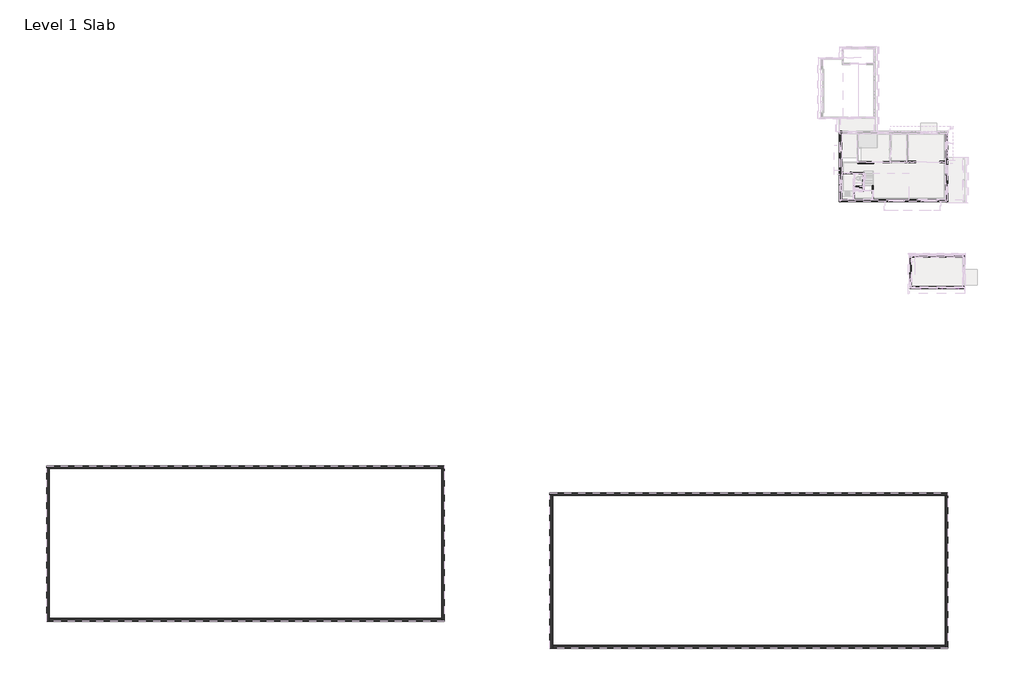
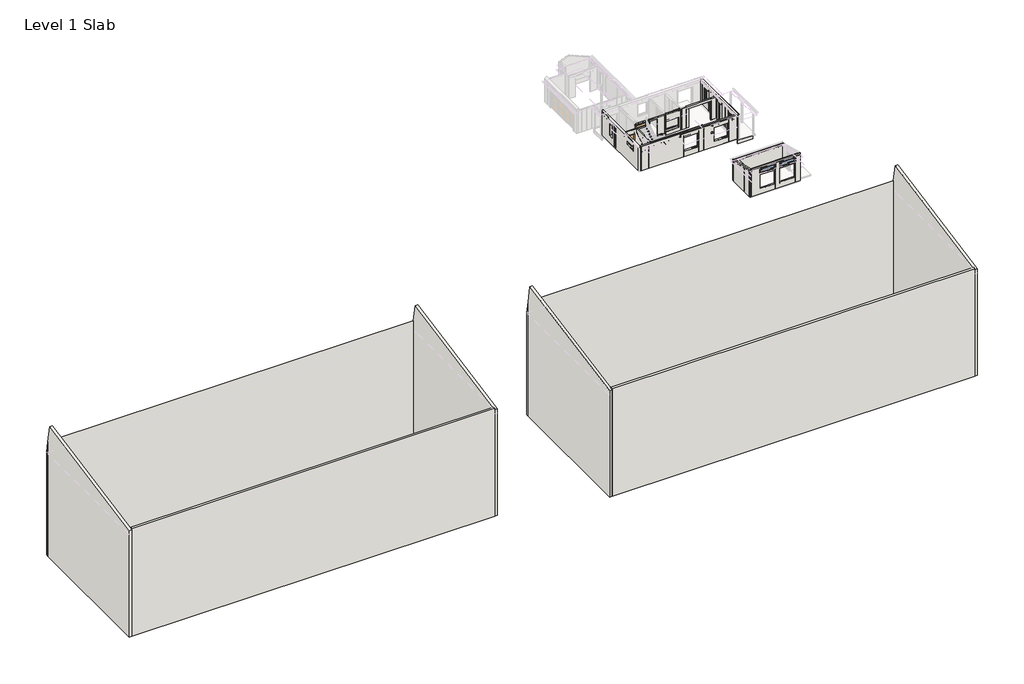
# One storey, part 1 of 11: 28 walls, 3 doors, 2 windows.
"""IFC4 building model written with IfcOpenShell, lengths in millimetres."""

from ifc_helpers import new_model, si_unit, frame, origin, origin_with_axes, place, context, project, spatial, polyline, outline, extrude, faceted_brep, transform, mapped, element, save
from components import horizontal_rolling_barn_door_5480sld_e0d32aa0, single_flush_access_panel_2240hc_e817886f, single_panel_flush_wood_21080hc_455a9f4f, window_a3b314fc

model = new_model("IFC4")

# Units and contexts
model_context = context("Model", 3, world=origin())
ifc_project = project(units=[si_unit("LENGTHUNIT", "METRE", prefix="MILLI")], contexts=[model_context])

# Site, building, storey
site = spatial("IfcSite", under=ifc_project)
building = spatial("IfcBuilding", under=site)
storey = spatial("IfcBuildingStorey", under=building, Name="Level 1 Slab", Elevation=0.0)

# Doors
placement = place(None, origin())
horizontal_rolling_barn_door_5480sld_shape = horizontal_rolling_barn_door_5480sld_e0d32aa0(model_context)
element("IfcDoor", 1, ObjectType="Horizontal rolling barn door : 5480SLD", at=placement, inside=storey, context=model_context, shape_type="MappedRepresentation", body=[
    mapped(horizontal_rolling_barn_door_5480sld_shape, transform((-9465.7913012, -131.2650713, 0.0), x_axis=(1.0, 0.0, 0.0), y_axis=(0.0, 1.0, 0.0), z_axis=(0.0, 0.0, 1.0))),
])
single_flush_access_panel_2240hc_shape = single_flush_access_panel_2240hc_e817886f(model_context)
element("IfcDoor", 2, ObjectType="Single Flush Access Panel : 2240HC", at=placement, inside=storey, context=model_context, shape_type="MappedRepresentation", body=[
    mapped(single_flush_access_panel_2240hc_shape, transform((-9519.5470616, -3998.4150713, 0.0), x_axis=(0.0, -1.0, 0.0), y_axis=(1.0, 0.0, 0.0), z_axis=(0.0, 0.0, 1.0))),
])
single_panel_flush_wood_21080hc_shape = single_panel_flush_wood_21080hc_455a9f4f(model_context)
element("IfcDoor", 3, ObjectType="Single Panel Flush Wood : 21080HC", at=placement, inside=storey, context=model_context, shape_type="MappedRepresentation", body=[
    mapped(single_panel_flush_wood_21080hc_shape, transform((-12485.0178637, -1350.4650713, 0.0), x_axis=(-1.0, 0.0, 0.0), y_axis=(0.0, -1.0, 0.0), z_axis=(0.0, 0.0, 1.0))),
])

# Walls
element("IfcWall", 4, ObjectType="EXT.SDG.LAP10 - 3/8ESL10.1/2AIR.4WS.2-1/4AIR.4WS.1/2GB (NR)", at=placement, inside=storey, context=model_context, shape_type="Brep", body=[
    faceted_brep([(-13018.4178637, -4598.4900713, 0.0), (-13018.4178637, -4328.6150713, 0.0), (-13018.4178637, -4125.4150713, 0.0), (-13018.4178637, -4020.6400713, 0.0), (-13018.4178637, -1407.6150713, 0.0), (-13018.4178637, -1293.3150713, 0.0), (-13018.4178637, 3100.8849287, 0.0), (-13018.4178637, 3370.7599287, 0.0), (-13018.4178637, 3370.7599287, 2997.7291667), (-13018.4178637, 3370.7599287, 3047.603125), (-13018.4178637, 3370.7599287, 3079.75), (-13018.4178637, 3348.5349287, 3079.75), (-13018.4178637, 3348.5349287, 3047.603125), (-13018.4178637, 3348.5349287, 3044.825), (-13018.4178637, 3100.8849287, 3044.825), (-13018.4178637, -1293.3150713, 3044.825), (-13018.4178637, -1407.6150713, 3044.825), (-13018.4178637, -4328.6150713, 3044.825), (-13018.4178637, -4576.2650713, 3044.825), (-13018.4178637, -4576.2650713, 3079.75), (-13018.4178637, -4598.4900713, 3079.75), (-13018.4178637, 992.6849287, 927.1), (-13018.4178637, 992.6849287, 2438.4), (-13018.4178637, 1589.5849287, 2438.4), (-13018.4178637, 1589.5849287, 927.1), (-13018.4178637, -3350.7150713, 2019.3), (-13018.4178637, -3350.7150713, 2438.4), (-13018.4178637, -2144.2150713, 2438.4), (-13018.4178637, -2144.2150713, 2019.3), (-13288.2928637, -4598.4900713, 0.0), (-13288.2928637, -4598.4900713, 3079.75), (-13288.2928637, -4458.7900713, 3079.75), (-13288.2928637, -1550.4900713, 3079.75), (-13288.2928637, -1527.9158213, 3079.75), (-13288.2928637, -1527.9158213, 3044.825), (-13288.2928637, 1824.5349287, 3044.825), (-13288.2928637, 1824.5349287, 3079.75), (-13288.2928637, 3370.7599287, 3079.75), (-13288.2928637, 3370.7599287, 0.0), (-13288.2928637, -4458.7900713, 0.0), (-13288.2928637, 992.6849287, 2438.4), (-13288.2928637, 992.6849287, 927.1), (-13288.2928637, 1589.5849287, 927.1), (-13288.2928637, 1589.5849287, 2438.4), (-13288.2928637, -3350.7150713, 2438.4), (-13288.2928637, -3350.7150713, 2019.3), (-13288.2928637, -2144.2150713, 2019.3), (-13288.2928637, -2144.2150713, 2438.4), (-13266.0678637, 1824.5349287, 3079.75), (-13266.0678637, 3348.5349287, 3079.75), (-13148.5928637, -4598.4900713, 3079.75), (-13266.0678637, -4576.2650713, 3079.75), (-13266.0678637, -1527.9158213, 3079.75), (-13148.5928637, -4598.4900713, 0.0), (-13278.7678637, -4598.4900713, 0.0), (-13278.7678637, 3370.7599287, 0.0), (-13266.0678637, -1527.9158213, 3044.825), (-13266.0678637, -4576.2650713, 3044.825), (-13266.0678637, 3348.5349287, 3044.825), (-13266.0678637, 1824.5349287, 3044.825)], [[[0, 1, 2, 3, 4, 5, 6, 7, 8, 9, 10, 11, 12, 13, 14, 15, 16, 17, 18, 19, 20], [21, 22, 23, 24], [25, 26, 27, 28]], [[29, 30, 31, 32, 33, 34, 35, 36, 37, 38, 39], [40, 41, 42, 43], [44, 45, 46, 47]], [[10, 37, 36, 48, 49, 11]], [[30, 50, 20, 19, 51, 52, 33, 32, 31]], [[7, 6, 5, 4, 3, 2, 1, 0, 53, 54, 55]], [[0, 20, 50, 30, 29, 54, 53]], [[55, 54, 29, 39, 38]], [[21, 41, 40, 22]], [[22, 40, 43, 23]], [[23, 43, 42, 24]], [[41, 21, 24, 42]], [[10, 9, 8, 7, 55, 38, 37]], [[26, 25, 45, 44]], [[27, 26, 44, 47]], [[28, 27, 47, 46]], [[25, 28, 46, 45]], [[56, 57, 18, 17, 16, 15, 14, 13, 58, 59, 35, 34]], [[49, 58, 13, 12, 11]], [[57, 51, 19, 18]], [[59, 58, 49, 48]], [[57, 56, 52, 51]], [[52, 56, 34, 33]], [[59, 48, 36, 35]]]),
])
element("IfcWall", 5, ObjectType="EXT.SDG.LAP10 - 3/8ESL10.1/2AIR.4WS.2-1/4AIR.4WS.1/2GB (NR)", at=placement, inside=storey, context=model_context, shape_type="Brep", body=[
    faceted_brep([(-1321.7178637, -4598.4900713, 3079.75), (-1321.7178637, -4576.2650713, 3079.75), (-1321.7178637, -4576.2650713, 3044.825), (-1321.7178637, -4328.6150713, 3044.825), (-1321.7178637, 3100.8849287, 3044.825), (-1321.7178637, 3100.8849287, 2743.2), (-1321.7178637, -4341.3150713, 2743.2), (-1321.7178637, -4341.3150713, 2727.325), (-1321.7178637, 3100.8849287, 2727.325), (-1321.7178637, 3100.8849287, 0.0), (-1321.7178637, -23.3150713, 0.0), (-1321.7178637, -188.4150713, 0.0), (-1321.7178637, -461.2904463, 0.0), (-1321.7178637, -461.2904463, 2438.4), (-1321.7178637, -1375.6904463, 2438.4), (-1321.7178637, -1375.6904463, 0.0), (-1321.7178637, -4328.6150713, 0.0), (-1321.7178637, -4598.4900713, 0.0), (-1321.7178637, 2275.3849287, 977.9), (-1321.7178637, 2275.3849287, 2438.4), (-1321.7178637, 1373.6849287, 2438.4), (-1321.7178637, 1373.6849287, 977.9), (-1321.7178637, -2906.0404463, 673.1), (-1321.7178637, -2906.0404463, 2438.4), (-1321.7178637, -3807.7404463, 2438.4), (-1321.7178637, -3807.7404463, 673.1), (-1051.8428637, -4458.7900713, 3079.75), (-1051.8428637, -4598.4900713, 3079.75), (-1051.8428637, -4598.4900713, 2622.55), (-1051.8428637, -4598.4900713, 0.0), (-1051.8428637, -4458.7900713, 0.0), (-1051.8428637, -1375.6904463, 0.0), (-1051.8428637, -1375.6904463, 2438.4), (-1051.8428637, -461.2904463, 2438.4), (-1051.8428637, -461.2904463, 0.0), (-1051.8428637, 3100.8849287, 0.0), (-1051.8428637, 3100.8849287, 2733.675), (-1051.8428637, -286.8400713, 2733.675), (-1051.8428637, -286.8400713, 2743.2), (-1051.8428637, 3100.8849287, 2743.2), (-1051.8428637, 3100.8849287, 3044.825), (-1051.8428637, -309.0650713, 3044.825), (-1051.8428637, -309.0650713, 3079.75), (-1051.8428637, -331.2900713, 3079.75), (-1051.8428637, 2275.3849287, 2438.4), (-1051.8428637, 2275.3849287, 977.9), (-1051.8428637, 1373.6849287, 977.9), (-1051.8428637, 1373.6849287, 2438.4), (-1051.8428637, -2906.0404463, 2438.4), (-1051.8428637, -2906.0404463, 673.1), (-1051.8428637, -3807.7404463, 673.1), (-1051.8428637, -3807.7404463, 2438.4), (-1191.5428637, -4598.4900713, 3079.75), (-1074.0678637, -309.0650713, 3079.75), (-1074.0678637, -4576.2650713, 3079.75), (-1061.3678637, 3100.8849287, 0.0), (-1061.3678637, -461.2904463, 0.0), (-1061.3678637, -4598.4900713, 0.0), (-1191.5428637, -4598.4900713, 0.0), (-1061.3678637, -1375.6904463, 0.0), (-1309.0178637, 3100.8849287, 2727.325), (-1309.0178637, 3100.8849287, 2743.2), (-1074.0678637, 3100.8849287, 2743.2), (-1074.0678637, 3100.8849287, 2733.675), (-1074.0678637, -4576.2650713, 3044.825), (-1074.0678637, -309.0650713, 3044.825), (-1309.0178637, -4341.3150713, 2743.2), (-1309.0178637, -4341.3150713, 2727.325), (-1074.0678637, -286.8400713, 2743.2), (-1074.0678637, -286.8400713, 2733.675)], [[[0, 1, 2, 3, 4, 5, 6, 7, 8, 9, 10, 11, 12, 13, 14, 15, 16, 17], [18, 19, 20, 21], [22, 23, 24, 25]], [[26, 27, 28, 29, 30, 31, 32, 33, 34, 35, 36, 37, 38, 39, 40, 41, 42, 43], [44, 45, 46, 47], [48, 49, 50, 51]], [[0, 52, 27, 26, 43, 42, 53, 54, 1]], [[9, 55, 56, 12, 11, 10]], [[57, 58, 17, 16, 15, 59]], [[55, 9, 8, 60, 61, 5, 4, 40, 39, 62, 63, 36, 35]], [[55, 35, 34, 56]], [[29, 57, 59, 31, 30]], [[19, 18, 45, 44]], [[20, 19, 44, 47]], [[21, 20, 47, 46]], [[18, 21, 46, 45]], [[23, 22, 49, 48]], [[24, 23, 48, 51]], [[25, 24, 51, 50]], [[22, 25, 50, 49]], [[64, 65, 41, 40, 4, 3, 2]], [[65, 64, 54, 53]], [[54, 64, 2, 1]], [[65, 53, 42, 41]], [[61, 66, 6, 5]], [[7, 67, 60, 8]], [[66, 67, 7, 6]], [[67, 66, 61, 60]], [[57, 29, 28, 27, 52, 0, 17, 58]], [[38, 68, 62, 39]], [[63, 69, 37, 36]], [[68, 69, 63, 62]], [[69, 68, 38, 37]], [[15, 14, 32, 31, 59]], [[14, 13, 33, 32]], [[13, 12, 56, 34, 33]]]),
])
element("IfcWall", 6, ObjectType="EXT.SDG.LAP10 - 3/8ESL10.1/2AIR.4WS.2-1/4AIR.4WS.1/2GB (NR)", at=placement, inside=storey, context=model_context, shape_type="Brep", body=[
    faceted_brep([(-1321.7178637, -4328.6150713, 0.0), (-11608.7178637, -4328.6150713, 0.0), (-11723.0178637, -4328.6150713, 0.0), (-13018.4178637, -4328.6150713, 0.0), (-13018.4178637, -4328.6150713, 3044.825), (-11723.0178637, -4328.6150713, 3044.825), (-11608.7178637, -4328.6150713, 3044.825), (-11608.7178637, -4328.6150713, 3079.75), (-5328.5678637, -4328.6150713, 3079.75), (-5328.5678637, -4328.6150713, 3044.825), (-1321.7178637, -4328.6150713, 3044.825), (-2325.0178637, -4328.6150713, 673.1), (-2325.0178637, -4328.6150713, 2438.4), (-4090.3178637, -4328.6150713, 2438.4), (-4090.3178637, -4328.6150713, 673.1), (-5982.6178637, -4328.6150713, 673.1), (-5982.6178637, -4328.6150713, 2438.4), (-7747.9178637, -4328.6150713, 2438.4), (-7747.9178637, -4328.6150713, 673.1), (-1321.7178637, -4598.4900713, 3079.75), (-13018.4178637, -4598.4900713, 3079.75), (-13018.4178637, -4598.4900713, 0.0), (-1321.7178637, -4598.4900713, 0.0), (-2325.0178637, -4598.4900713, 2438.4), (-2325.0178637, -4598.4900713, 673.1), (-4090.3178637, -4598.4900713, 673.1), (-4090.3178637, -4598.4900713, 2438.4), (-5982.6178637, -4598.4900713, 2438.4), (-5982.6178637, -4598.4900713, 673.1), (-7747.9178637, -4598.4900713, 673.1), (-7747.9178637, -4598.4900713, 2438.4), (-1913.8553637, -4598.4900713, 2641.3354167), (-1913.8553637, -4598.4900713, 2950.8979167), (-8200.3553637, -4598.4900713, 2950.8979167), (-8200.3553637, -4598.4900713, 2641.3354167), (-8219.4053637, -4598.4900713, 2641.3354167), (-8219.4053637, -4598.4900713, 2799.55625), (-8238.4553637, -4598.4900713, 2799.55625), (-8238.4553637, -4598.4900713, 2987.0135417), (-1875.7553637, -4598.4900713, 2987.0135417), (-1875.7553637, -4598.4900713, 2799.55625), (-1894.8053637, -4598.4900713, 2799.55625), (-1894.8053637, -4598.4900713, 2641.3354167), (-4428.4553637, -4598.4900713, 1774.7435897), (-4428.4553637, -4598.4900713, 1972.3092244), (-4288.7553637, -4598.4900713, 1972.3092244), (-4288.7553637, -4598.4900713, 1774.7435897), (-4428.4553637, -4598.4900713, 2785.7979167), (-4428.4553637, -4598.4900713, 2937.1395833), (-4288.7553637, -4598.4900713, 2937.1395833), (-4288.7553637, -4598.4900713, 2785.7979167), (-11608.7178637, -4341.3150713, 3079.75), (-5328.5678637, -4341.3150713, 3079.75), (-1321.7178637, -4576.2650713, 3079.75), (-13018.4178637, -4576.2650713, 3079.75), (-1321.7178637, -4588.9650713, 0.0), (-13018.4178637, -4588.9650713, 0.0), (-1321.7178637, -4576.2650713, 3044.825), (-13018.4178637, -4576.2650713, 3044.825), (-5328.5678637, -4341.3150713, 3044.825), (-11608.7178637, -4341.3150713, 3044.825), (-1894.8053637, -4576.2650713, 2808.8166667), (-1875.7553637, -4576.2650713, 2808.8166667), (-1875.7553637, -4576.2650713, 2960.1583333), (-1875.7553637, -4576.2650713, 2996.2739583), (-8238.4553637, -4576.2650713, 2996.2739583), (-8238.4553637, -4576.2650713, 2960.1583333), (-8238.4553637, -4576.2650713, 2808.8166667), (-8219.4053637, -4576.2650713, 2808.8166667), (-8219.4053637, -4576.2650713, 2650.5958333), (-8200.3553637, -4576.2650713, 2650.5958333), (-8200.3553637, -4576.2650713, 2960.1583333), (-1913.8553637, -4576.2650713, 2960.1583333), (-1913.8553637, -4576.2650713, 2650.5958333), (-1894.8053637, -4576.2650713, 2650.5958333), (-4428.4553637, -4576.2650713, 2795.0583333), (-4428.4553637, -4576.2650713, 2946.4), (-4428.4553637, -4576.2650713, 1752.5185897), (-4428.4553637, -4576.2650713, 1950.0842244), (-4288.7553637, -4576.2650713, 2946.4), (-4288.7553637, -4576.2650713, 2795.0583333), (-4288.7553637, -4576.2650713, 1950.0842244), (-4288.7553637, -4576.2650713, 1752.5185897)], [[[0, 1, 2, 3, 4, 5, 6, 7, 8, 9, 10], [11, 12, 13, 14], [15, 16, 17, 18]], [[19, 20, 21, 22], [23, 24, 25, 26], [27, 28, 29, 30], [31, 32, 33, 34, 35, 36, 37, 38, 39, 40, 41, 42], [43, 44, 45, 46], [47, 48, 49, 50]], [[8, 7, 51, 52]], [[20, 19, 53, 54]], [[3, 2, 1, 0, 55, 56]], [[19, 22, 55, 0, 10, 57, 53]], [[22, 21, 56, 55]], [[21, 20, 54, 58, 4, 3, 56]], [[12, 11, 24, 23]], [[13, 12, 23, 26]], [[14, 13, 26, 25]], [[11, 14, 25, 24]], [[16, 15, 28, 27]], [[17, 16, 27, 30]], [[18, 17, 30, 29]], [[15, 18, 29, 28]], [[59, 60, 6, 5, 4, 58, 57, 10, 9]], [[57, 58, 54, 53]], [[60, 51, 7, 6]], [[60, 59, 52, 51]], [[52, 59, 9, 8]], [[61, 62, 63, 64, 65, 66, 67, 68, 69, 70, 71, 72, 73, 74]], [[73, 72, 32, 31]], [[74, 73, 31, 42]], [[61, 74, 42, 41]], [[62, 61, 41, 40]], [[62, 40, 39, 64, 63]], [[71, 70, 34, 33]], [[70, 69, 35, 34]], [[69, 68, 36, 35]], [[68, 67, 37, 36]], [[37, 67, 66, 65, 38]], [[72, 71, 33, 32]], [[65, 64, 39, 38]], [[75, 76, 48, 47]], [[77, 78, 44, 43]], [[79, 80, 50, 49]], [[81, 82, 46, 45]], [[76, 79, 49, 48]], [[76, 75, 80, 79]], [[80, 75, 47, 50]], [[78, 81, 45, 44]], [[78, 77, 82, 81]], [[82, 77, 43, 46]]]),
])
element("IfcWall", 7, ObjectType="INT.GB - 1/2GB.4WS.1/2GB (NR)", at=placement, inside=storey, context=model_context, shape_type="SweptSolid", body=[
    extrude(outline(polyline([(2438.4, -8427.3678637), (0.0, -8427.3678637), (0.0, -7639.9678637), (2727.325, -7639.9678637), (2727.325, -11176.9178637), (0.0, -11176.9178637), (0.0, -9646.5678637), (2438.4, -9646.5678637), (2438.4, -8427.3678637)])), frame((0.0, -188.4150713, 0.0), z_axis=(0.0, 1.0, 0.0), x_axis=(0.0, 0.0, 1.0)), (0.0, 0.0, 1.0), 114.3),
])
element("IfcWall", 8, ObjectType="INT.GB - 1/2GB.4WS.1/2GB (NR)", at=placement, inside=storey, context=model_context, shape_type="Brep", body=[
    faceted_brep([(-13018.4178637, -1407.6150713, 0.0), (-12916.8178637, -1407.6150713, 0.0), (-12916.8178637, -1407.6150713, 2438.4), (-12053.2178637, -1407.6150713, 2438.4), (-12053.2178637, -1407.6150713, 0.0), (-10643.4970616, -1407.6150713, 0.0), (-10643.4970616, -1407.6150713, 3044.825), (-11608.7178637, -1407.6150713, 3044.825), (-11723.0178637, -1407.6150713, 3044.825), (-13018.4178637, -1407.6150713, 3044.825), (-12916.8178637, -1293.3150713, 2438.4), (-12916.8178637, -1293.3150713, 0.0), (-13018.4178637, -1293.3150713, 0.0), (-13018.4178637, -1293.3150713, 3044.825), (-10643.4970616, -1293.3150713, 3044.825), (-10643.4970616, -1293.3150713, 0.0), (-12053.2178637, -1293.3150713, 0.0), (-12053.2178637, -1293.3150713, 2438.4), (-13018.4178637, -1395.7234188, 3044.825), (-10643.4970616, -1382.2150713, 3044.825), (-10643.4970616, -1395.7234188, 3044.825), (-11608.7178637, -1395.7234188, 3044.825)], [[[0, 1, 2, 3, 4, 5, 6, 7, 8, 9]], [[10, 11, 12, 13, 14, 15, 16, 17]], [[16, 15, 5, 4]], [[12, 11, 1, 0]], [[2, 1, 11, 10]], [[3, 2, 10, 17]], [[4, 3, 17, 16]], [[0, 9, 18, 13, 12]], [[6, 5, 15, 14, 19, 20]], [[9, 8, 7, 6, 20, 21, 18]], [[20, 19, 14, 13, 18, 21]]]),
])
element("IfcWall", 9, ObjectType="INT.GB - 1/2GB.4WS.1/2GB (NR)", at=placement, inside=storey, context=model_context, shape_type="Brep", body=[
    faceted_brep([(-10643.4970616, -1293.3150713, 0.0), (-10643.4970616, -1407.6150713, 0.0), (-10643.4970616, -2499.8150713, 0.0), (-10643.4970616, -2604.5900713, 0.0), (-10643.4970616, -2852.2400713, 0.0), (-10643.4970616, -2855.4150713, 0.0), (-10643.4970616, -2957.0150713, 0.0), (-10643.4970616, -2969.7150713, 0.0), (-10643.4970616, -3376.9338423, 0.0), (-10643.4970616, -3376.9338423, 1388.2220588), (-10643.4970616, -3166.5650713, 1388.2220588), (-10643.4970616, -3166.5650713, 1404.0970588), (-10643.4970616, -3376.9338423, 1404.0970588), (-10643.4970616, -3376.9338423, 1605.0558824), (-10643.4970616, -3236.4150713, 1605.0558824), (-10643.4970616, -3236.4150713, 1786.2176471), (-10643.4970616, -2970.5234188, 1786.2176471), (-10643.4970616, -2970.5234188, 1967.3794118), (-10643.4970616, -2703.8234188, 1967.3794118), (-10643.4970616, -2703.8234188, 2148.5411765), (-10643.4970616, -2437.1234188, 2148.5411765), (-10643.4970616, -2437.1234188, 2329.7029412), (-10643.4970616, -2170.4234188, 2329.7029412), (-10643.4970616, -2170.4234188, 2510.8647059), (-10643.4970616, -1903.7234188, 2510.8647059), (-10643.4970616, -1903.7234188, 2692.0264706), (-10643.4970616, -1637.0234188, 2692.0264706), (-10643.4970616, -1637.0234188, 2873.1882353), (-10643.4970616, -1382.2150713, 2873.1882353), (-10643.4970616, -1382.2150713, 3044.825), (-10643.4970616, -1293.3150713, 3044.825), (-10529.1970616, -2970.5234188, 1786.2176471), (-10529.1970616, -3236.4150713, 1786.2176471), (-10529.1970616, -3236.4150713, 1605.0558824), (-10529.1970616, -3376.9338423, 1605.0558824), (-10529.1970616, -3376.9338423, 1404.0970588), (-10529.1970616, -3262.6234188, 1404.0970588), (-10529.1970616, -3262.6234188, 1388.2220588), (-10529.1970616, -3278.4984188, 1388.2220588), (-10529.1970616, -3376.9338423, 1388.2220588), (-10529.1970616, -3376.9338423, 0.0), (-10529.1970616, -1490.4808979, 0.0), (-10529.1970616, -3262.6234188, 1190.625), (-10529.1970616, -3262.6234188, 1191.2010511), (-10529.1970616, -3262.6234188, 1209.750197), (-10529.1970616, -1490.4808979, 19.125197), (-10529.1970616, -1293.3150713, 0.0), (-10529.1970616, -1293.3150713, 3044.825), (-10529.1970616, -1382.2150713, 3044.825), (-10529.1970616, -1382.2150713, 2873.1882353), (-10529.1970616, -1637.0234188, 2873.1882353), (-10529.1970616, -1637.0234188, 2692.0264706), (-10529.1970616, -1903.7234188, 2692.0264706), (-10529.1970616, -1903.7234188, 2510.8647059), (-10529.1970616, -2170.4234188, 2510.8647059), (-10529.1970616, -2170.4234188, 2329.7029412), (-10529.1970616, -2437.1234188, 2329.7029412), (-10529.1970616, -2437.1234188, 2148.5411765), (-10529.1970616, -2703.8234188, 2148.5411765), (-10529.1970616, -2703.8234188, 1967.3794118), (-10529.1970616, -2970.5234188, 1967.3794118), (-10630.7970616, -3262.6234188, 1404.0970588), (-10630.7970616, -3166.5650713, 1404.0970588), (-10630.7970616, -3262.6234188, 1388.2220588), (-10630.7970616, -3166.5650713, 1388.2220588), (-10541.8970616, -3262.6234188, 1209.750197), (-10541.8970616, -1490.4808979, 19.125197), (-10541.8970616, -1490.4808979, 0.0), (-10541.8970616, -3262.6234188, 1190.625)], [[[0, 1, 2, 3, 4, 5, 6, 7, 8, 9, 10, 11, 12, 13, 14, 15, 16, 17, 18, 19, 20, 21, 22, 23, 24, 25, 26, 27, 28, 29, 30]], [[31, 32, 33, 34, 35, 36, 37, 38, 39, 40, 41, 42, 43, 44, 45, 41, 46, 47, 48, 49, 50, 51, 52, 53, 54, 55, 56, 57, 58, 59, 60]], [[8, 7, 6, 5, 4, 3, 2, 1, 0, 46, 41, 40]], [[8, 40, 39, 9]], [[34, 13, 12, 35]], [[16, 15, 32, 31]], [[17, 16, 31, 60]], [[18, 17, 60, 59]], [[19, 18, 59, 58]], [[20, 19, 58, 57]], [[21, 20, 57, 56]], [[22, 21, 56, 55]], [[23, 22, 55, 54]], [[24, 23, 54, 53]], [[25, 24, 53, 52]], [[26, 25, 52, 51]], [[27, 26, 51, 50]], [[28, 27, 50, 49]], [[28, 49, 48, 29]], [[46, 0, 30, 47]], [[14, 13, 34, 33]], [[15, 14, 33, 32]], [[61, 36, 35, 12, 11, 62]], [[37, 63, 64, 10, 9, 39, 38]], [[36, 61, 63, 37]], [[65, 66, 45, 44]], [[67, 68, 42, 41]], [[66, 67, 41, 45]], [[66, 65, 68, 67]], [[68, 65, 44, 43, 42]], [[61, 62, 64, 63]], [[64, 62, 11, 10]], [[30, 29, 48, 47]]]),
])
element("IfcWall", 10, ObjectType="INT.GB - 1/2GB.4WS.1/2GB (NR)", at=placement, inside=storey, context=model_context, shape_type="SweptSolid", body=[
    extrude(outline(polyline([(-11608.7178637, -2855.4150713), (-10643.4970616, -2855.4150713), (-10643.4970616, -2969.7150713), (-11608.7178637, -2969.7150713), (-11608.7178637, -2855.4150713)])), origin_with_axes(), (0.0, 0.0, 1.0), 1615.1665467),
])
element("IfcWall", 11, ObjectType="INT.GB - 1/2GB.4WS.1/2GB (NR)", at=placement, inside=storey, context=model_context, shape_type="Brep", body=[
    faceted_brep([(-11723.0178637, -2499.8150713, 0.0), (-11723.0178637, -4020.6400713, 0.0), (-11723.0178637, -4125.4150713, 0.0), (-11723.0178637, -4328.6150713, 0.0), (-11723.0178637, -4328.6150713, 825.5), (-11723.0178637, -4125.4150713, 825.5), (-11723.0178637, -4036.5150713, 825.5), (-11723.0178637, -4036.5150713, 927.1), (-11723.0178637, -4020.6400713, 927.1), (-11723.0178637, -4020.6400713, 942.975), (-11723.0178637, -4328.6150713, 942.975), (-11723.0178637, -4328.6150713, 2727.325), (-11723.0178637, -4328.6150713, 2743.2), (-11723.0178637, -4328.6150713, 3044.825), (-11723.0178637, -1407.6150713, 3044.825), (-11723.0178637, -1407.6150713, 2743.2), (-11723.0178637, -2855.4150713, 2743.2), (-11723.0178637, -2855.4150713, 2727.325), (-11723.0178637, -1407.6150713, 2727.325), (-11723.0178637, -1407.6150713, 2603.0039063), (-11723.0178637, -2499.8150713, 1869.5789063), (-11608.7178637, -4328.6150713, 0.0), (-11608.7178637, -2969.7150713, 0.0), (-11608.7178637, -2957.0150713, 0.0), (-11608.7178637, -2855.4150713, 0.0), (-11608.7178637, -2852.2400713, 0.0), (-11608.7178637, -2604.5900713, 0.0), (-11608.7178637, -2499.8150713, 0.0), (-11608.7178637, -2499.8150713, 1066.8), (-11608.7178637, -2499.8150713, 1869.5789063), (-11608.7178637, -1407.6150713, 2603.0039062), (-11608.7178637, -1407.6150713, 2727.325), (-11608.7178637, -2855.4150713, 2727.325), (-11608.7178637, -2855.4150713, 2743.2), (-11608.7178637, -1407.6150713, 2743.2), (-11608.7178637, -1407.6150713, 3044.825), (-11608.7178637, -4328.6150713, 3044.825), (-11710.3178637, -4328.6150713, 942.975), (-11710.3178637, -4328.6150713, 825.5), (-11710.3178637, -4036.5150713, 825.5), (-11710.3178637, -4036.5150713, 927.1), (-11710.3178637, -4020.6400713, 942.975), (-11710.3178637, -4020.6400713, 927.1)], [[[0, 1, 2, 3, 4, 5, 6, 7, 8, 9, 10, 11, 12, 13, 14, 15, 16, 17, 18, 19, 20]], [[21, 22, 23, 24, 25, 26, 27, 28, 29, 30, 31, 32, 33, 34, 35, 36]], [[3, 2, 1, 0, 27, 26, 25, 24, 23, 22, 21]], [[0, 20, 29, 28, 27]], [[16, 15, 34, 33]], [[18, 17, 32, 31]], [[17, 16, 33, 32]], [[14, 13, 36, 35]], [[12, 11, 10, 37, 38, 4, 3, 21, 36, 13]], [[19, 18, 31, 30]], [[34, 15, 14, 35]], [[39, 6, 5, 4, 38]], [[40, 39, 38, 37, 41, 42]], [[39, 40, 7, 6]], [[40, 42, 8, 7]], [[41, 37, 10, 9]], [[42, 41, 9, 8]], [[20, 19, 30, 29]]]),
])
element("IfcWall", 12, ObjectType="INT.GB - 1/2GB.6WS.1/2GB (NR)", at=placement, inside=storey, context=model_context, shape_type="Brep", body=[
    faceted_brep([(-4674.5178637, -188.4150713, 2400.3), (-1956.7178637, -188.4150713, 2400.3), (-1956.7178637, -188.4150713, 0.0), (-1321.7178637, -188.4150713, 0.0), (-1321.7178637, -188.4150713, 2727.325), (-1537.6178637, -188.4150713, 2727.325), (-5525.4178637, -188.4150713, 2727.325), (-5525.4178637, -188.4150713, 0.0), (-4674.5178637, -188.4150713, 0.0), (-1956.7178637, -23.3150713, 2400.3), (-4674.5178637, -23.3150713, 2400.3), (-4674.5178637, -23.3150713, 0.0), (-5525.4178637, -23.3150713, 0.0), (-5525.4178637, -23.3150713, 2727.325), (-1321.7178637, -23.3150713, 2727.325), (-1321.7178637, -23.3150713, 0.0), (-1956.7178637, -23.3150713, 0.0)], [[[0, 1, 2, 3, 4, 5, 6, 7, 8]], [[9, 10, 11, 12, 13, 14, 15, 16]], [[11, 8, 7, 12]], [[15, 3, 2, 16]], [[3, 15, 14, 4]], [[10, 9, 1, 0]], [[9, 16, 2, 1]], [[11, 10, 0, 8]], [[5, 4, 14, 13, 6]], [[12, 7, 6, 13]]]),
])
element("IfcWall", 13, ObjectType="INT.GB - 1/2GB.4WS.1/2GB (NR)", at=placement, inside=storey, context=model_context, shape_type="SweptSolid", body=[
    extrude(outline(polyline([(-4328.6150713, 1605.0558824), (-3288.0234188, 1605.0558824), (-3288.0234188, 1423.8941176), (-3021.3234188, 1423.8941176), (-3021.3234188, 1242.7323529), (-2754.6234188, 1242.7323529), (-2754.6234188, 1061.5705882), (-2487.9234188, 1061.5705882), (-2487.9234188, 880.4088235), (-2221.2234188, 880.4088235), (-2221.2234188, 699.2470588), (-1954.5234188, 699.2470588), (-1954.5234188, 518.0852941), (-1687.8234188, 518.0852941), (-1687.8234188, 336.9235294), (-1421.1234188, 336.9235294), (-1421.1234188, 155.7617647), (-1154.4234188, 155.7617647), (-1154.4234188, 0.0), (-3668.2150713, 0.0), (-3668.2150713, 1219.2), (-4328.6150713, 1219.2), (-4328.6150713, 1605.0558824)])), frame((-9576.6970616, 0.0, 0.0), z_axis=(1.0, 0.0, 0.0), x_axis=(0.0, 1.0, 0.0)), (0.0, 0.0, 1.0), 114.3),
])
element("IfcWall", 14, ObjectType="EXT.SDG.LAP10 - 3/8ESL10.6WS.1/2GB (NR)", at=placement, inside=storey, context=model_context, shape_type="Brep", body=[
    faceted_brep([(-5363.4928637, -10662.7400713, -152.4), (-5363.4928637, -10662.7400713, 2470.2612252), (-5223.7928637, -10662.7400713, 2470.2612252), (637.2571363, -10662.7400713, 2470.2612252), (776.9571363, -10662.7400713, 2470.2612252), (776.9571363, -10662.7400713, -152.4), (637.2571363, -10662.7400713, -152.4), (-5223.7928637, -10662.7400713, -152.4), (754.7321363, -10662.7400713, 2280.5798214), (-5341.2678637, -10662.7400713, 2280.5798214), (-5341.2678637, -10662.7400713, 2260.9100857), (754.7321363, -10662.7400713, 2260.9100857), (-5363.4928637, -10837.3650713, -152.4), (-5188.8678637, -10837.3650713, -152.4), (602.3321363, -10837.3650713, -152.4), (776.9571363, -10837.3650713, -152.4), (776.9571363, -10837.3650713, 2513.9174752), (602.3321363, -10837.3650713, 2513.9174752), (-5188.8678637, -10837.3650713, 2513.9174752), (-5363.4928637, -10837.3650713, 2513.9174752), (-5201.5678637, -10837.3650713, 2270.125), (-5201.5678637, -10837.3650713, 2444.75), (-5188.8678637, -10837.3650713, 2444.75), (-4795.1678637, -10837.3650713, 2444.75), (-4795.1678637, -10837.3650713, 2324.1), (615.0321363, -10837.3650713, 2324.1), (615.0321363, -10837.3650713, 2307.7364245), (-4795.1678637, -10837.3650713, 2307.7364245), (-4795.1678637, -10837.3650713, 2270.125), (-5188.8678637, -10837.3650713, 2270.125), (-5363.4928637, -10802.4400713, -152.4), (-5363.4928637, -10672.2650713, -152.4), (776.9571363, -10672.2650713, -152.4), (776.9571363, -10802.4400713, -152.4), (615.0321363, -10824.6650713, 2320.925), (-4795.1678637, -10824.6650713, 2320.925), (615.0321363, -10824.6650713, 2304.5614245), (-4795.1678637, -10824.6650713, 2304.5614245), (-5201.5678637, -10750.0525713, 2270.125), (-5201.5678637, -10750.0525713, 2444.75), (754.7321363, -10672.2650713, 2283.0291071), (-5341.2678637, -10672.2650713, 2283.0291071), (-5341.2678637, -10672.2650713, 2263.3593715), (754.7321363, -10672.2650713, 2263.3593715), (-4795.1678637, -10750.0525713, 2270.125), (-4795.1678637, -10750.0525713, 2444.75)], [[[0, 1, 2, 3, 4, 5, 6, 7], [8, 9, 10, 11]], [[12, 13, 14, 15, 16, 17, 18, 19], [20, 21, 22, 23, 24, 25, 26, 27, 28, 29]], [[15, 14, 13, 12, 30, 31, 32, 33]], [[32, 31, 0, 7, 6, 5]], [[1, 0, 31, 30, 12, 19]], [[5, 4, 16, 15, 33, 32]], [[1, 19, 18, 17, 16, 4, 3, 2]], [[34, 25, 24, 35]], [[26, 36, 37, 27]], [[36, 34, 35, 37]], [[20, 38, 39, 21]], [[34, 36, 26, 25]], [[40, 41, 9, 8]], [[42, 43, 11, 10]], [[41, 42, 10, 9]], [[41, 40, 43, 42]], [[43, 40, 8, 11]], [[44, 38, 20, 29, 28]], [[39, 45, 23, 22, 21]], [[38, 44, 45, 39]], [[45, 44, 28, 27, 37, 35, 24, 23]]]),
])
element("IfcWall", 15, ObjectType="EXT.SDG.LAP10 - 3/8ESL10.6WS.1/2GB (NR)", at=placement, inside=storey, context=model_context, shape_type="Brep", body=[
    faceted_brep([(-5363.4928637, -10837.3650713, 2513.9174752), (-5363.4928637, -10837.3650713, -152.4), (-5363.4928637, -14225.0900713, -152.4), (-5363.4928637, -14364.7900713, -152.4), (-5363.4928637, -14364.7900713, 3185.6993743), (-5363.4928637, -14355.2650713, 3183.3059127), (-5363.4928637, -14355.2650713, 3202.948141), (-5363.4928637, -14364.7900713, 3205.3416026), (-5363.4928637, -14364.7900713, 3395.7737252), (-5363.4928637, -14225.0900713, 3360.8487252), (-5188.8678637, -14364.7900713, -152.4), (-5188.8678637, -14190.1650713, -152.4), (-5188.8678637, -10837.3650713, -152.4), (-5188.8678637, -10837.3650713, 2270.125), (-5188.8678637, -14202.8650713, 2270.125), (-5188.8678637, -14202.8650713, 2441.575), (-5188.8678637, -14202.8650713, 2444.75), (-5188.8678637, -11385.4193731, 2444.75), (-5188.8678637, -14190.1650713, 3145.9364245), (-5188.8678637, -14202.8650713, 3149.1114245), (-5188.8678637, -14202.8650713, 3165.475), (-5188.8678637, -14190.1650713, 3162.3), (-5188.8678637, -11319.9650713, 2444.75), (-5188.8678637, -10837.3650713, 2444.75), (-5188.8678637, -10837.3650713, 2513.9174752), (-5188.8678637, -14190.1650713, 3352.1174752), (-5188.8678637, -14364.7900713, 3395.7737252), (-5188.8678637, -14364.7900713, 3205.3416026), (-5188.8678637, -14355.2650713, 3202.948141), (-5188.8678637, -14355.2650713, 3183.3059127), (-5188.8678637, -14364.7900713, 3185.6993743), (-5223.7928637, -14364.7900713, -152.4), (-5353.9678637, -14364.7900713, -152.4), (-5353.9678637, -10837.3650713, -152.4), (-5201.5678637, -10837.3650713, 2444.75), (-5201.5678637, -10837.3650713, 2441.575), (-5201.5678637, -10837.3650713, 2270.125), (-5223.7928637, -14364.7900713, 3395.7737252), (-5201.5678637, -14202.8650713, 2270.125), (-5201.5678637, -11319.9650713, 2444.75), (-5201.5678637, -14202.8650713, 2444.75), (-5201.5678637, -11385.4193731, 2444.75), (-5201.5678637, -14202.8650713, 3165.475), (-5201.5678637, -14202.8650713, 3149.1114245)], [[[0, 1, 2, 3, 4, 5, 6, 7, 8, 9]], [[10, 11, 12, 13, 14, 15, 16, 17, 18, 19, 20, 21, 22, 23, 24, 25, 26, 27, 28, 29, 30]], [[12, 11, 10, 31, 32, 33]], [[33, 32, 3, 2, 1]], [[1, 0, 24, 23, 34, 35, 36, 13, 12, 33]], [[3, 32, 31, 10, 30, 4]], [[26, 37, 8, 7, 27]], [[26, 25, 24, 0, 9, 8, 37]], [[6, 28, 27, 7]], [[29, 5, 4, 30]], [[28, 6, 5, 29]], [[38, 14, 13, 36]], [[34, 23, 22, 39]], [[16, 40, 41, 17]], [[40, 38, 36, 35, 34, 39, 42, 43, 41]], [[38, 40, 16, 15, 14]], [[42, 39, 22, 21, 20]], [[41, 43, 19, 18, 17]], [[43, 42, 20, 19]]]),
])
element("IfcWall", 16, ObjectType="EXT.SDG.LAP10 - 3/8ESL10.6WS.1/2GB (NR)", at=placement, inside=storey, context=model_context, shape_type="Brep", body=[
    faceted_brep([(-5188.8678637, -14364.7900713, -152.4), (637.2571363, -14364.7900713, -152.4), (776.9571363, -14364.7900713, -152.4), (776.9571363, -14364.7900713, 2378.075), (776.9571363, -14364.7900713, 2395.137341), (776.9571363, -14364.7900713, 2399.112659), (776.9571363, -14364.7900713, 2490.387341), (776.9571363, -14364.7900713, 2494.362659), (776.9571363, -14364.7900713, 2511.425), (776.9571363, -14364.7900713, 3185.6993743), (-5188.8678637, -14364.7900713, 3185.6993743), (113.3821363, -14364.7900713, 2286.0), (113.3821363, -14364.7900713, 520.7), (-1651.9178637, -14364.7900713, 520.7), (-1651.9178637, -14364.7900713, 2286.0), (-2325.0178637, -14364.7900713, 2286.0), (-2325.0178637, -14364.7900713, 520.7), (-4090.3178637, -14364.7900713, 520.7), (-4090.3178637, -14364.7900713, 2286.0), (113.3821363, -14364.7900713, 3060.7), (113.3821363, -14364.7900713, 2603.5), (-1651.9178637, -14364.7900713, 2603.5), (-1651.9178637, -14364.7900713, 3060.7), (-2325.0178637, -14364.7900713, 3060.7), (-2325.0178637, -14364.7900713, 2603.5), (-4090.3178637, -14364.7900713, 2603.5), (-4090.3178637, -14364.7900713, 3060.7), (776.9571363, -14364.7900713, 3395.7737252), (637.2571363, -14364.7900713, 3395.7737252), (-5188.8678637, -14364.7900713, 3395.7737252), (-5188.8678637, -14364.7900713, 3205.3416026), (776.9571363, -14364.7900713, 3205.3416026), (776.9571363, -14190.1650713, -152.4), (602.3321363, -14190.1650713, -152.4), (-5188.8678637, -14190.1650713, -152.4), (-5188.8678637, -14190.1650713, 2270.125), (-4795.1678637, -14190.1650713, 2270.125), (-4795.1678637, -14190.1650713, 2444.75), (-5188.8678637, -14190.1650713, 2444.75), (-5188.8678637, -14190.1650713, 3145.9364245), (615.0321363, -14190.1650713, 3145.9364245), (615.0321363, -14190.1650713, 3162.3), (-5188.8678637, -14190.1650713, 3162.3), (-5188.8678637, -14190.1650713, 3352.1174752), (602.3321363, -14190.1650713, 3352.1174752), (776.9571363, -14190.1650713, 3352.1174752), (113.3821363, -14190.1650713, 520.7), (113.3821363, -14190.1650713, 2286.0), (-1651.9178637, -14190.1650713, 2286.0), (-1651.9178637, -14190.1650713, 520.7), (-2325.0178637, -14190.1650713, 520.7), (-2325.0178637, -14190.1650713, 2286.0), (-4090.3178637, -14190.1650713, 2286.0), (-4090.3178637, -14190.1650713, 520.7), (113.3821363, -14190.1650713, 2603.5), (113.3821363, -14190.1650713, 3060.7), (-1651.9178637, -14190.1650713, 3060.7), (-1651.9178637, -14190.1650713, 2603.5), (-2325.0178637, -14190.1650713, 2603.5), (-2325.0178637, -14190.1650713, 3060.7), (-4090.3178637, -14190.1650713, 3060.7), (-4090.3178637, -14190.1650713, 2603.5), (776.9571363, -14225.0900713, -152.4), (776.9571363, -14355.2650713, -152.4), (-5188.8678637, -14355.2650713, -152.4), (-5188.8678637, -14355.2650713, 3183.3059127), (-5188.8678637, -14355.2650713, 3202.948141), (-5188.8678637, -14202.8650713, 3165.475), (-5188.8678637, -14202.8650713, 3149.1114245), (-5188.8678637, -14202.8650713, 2444.75), (-5188.8678637, -14202.8650713, 2270.125), (776.9571363, -14225.0900713, 3360.8487252), (776.9571363, -14355.2650713, 3202.948141), (776.9571363, -14355.2650713, 3183.3059127), (615.0321363, -14202.8650713, 3165.475), (615.0321363, -14202.8650713, 3149.1114245), (-4795.1678637, -14202.8650713, 2270.125), (-4795.1678637, -14202.8650713, 2444.75)], [[[0, 1, 2, 3, 4, 5, 6, 7, 8, 9, 10], [11, 12, 13, 14], [15, 16, 17, 18], [19, 20, 21, 22], [23, 24, 25, 26]], [[27, 28, 29, 30, 31]], [[32, 33, 34, 35, 36, 37, 38, 39, 40, 41, 42, 43, 44, 45], [46, 47, 48, 49], [50, 51, 52, 53], [54, 55, 56, 57], [58, 59, 60, 61]], [[34, 33, 32, 62, 63, 64]], [[64, 63, 2, 1, 0]], [[34, 64, 0, 10, 65, 66, 30, 29, 43, 42, 67, 68, 39, 38, 69, 70, 35]], [[32, 45, 71, 27, 31, 72, 73, 9, 8, 7, 6, 5, 4, 3, 2, 63, 62]], [[47, 46, 12, 11]], [[48, 47, 11, 14]], [[49, 48, 14, 13]], [[46, 49, 13, 12]], [[51, 50, 16, 15]], [[52, 51, 15, 18]], [[53, 52, 18, 17]], [[50, 53, 17, 16]], [[45, 44, 43, 29, 28, 27, 71]], [[54, 20, 19, 55]], [[22, 56, 55, 19]], [[56, 22, 21, 57]], [[57, 21, 20, 54]], [[41, 74, 67, 42]], [[68, 75, 40, 39]], [[74, 75, 68, 67]], [[75, 74, 41, 40]], [[31, 30, 66, 72]], [[10, 9, 73, 65]], [[66, 65, 73, 72]], [[23, 59, 58, 24]], [[59, 23, 26, 60]], [[60, 26, 25, 61]], [[24, 58, 61, 25]], [[70, 76, 36, 35]], [[37, 77, 69, 38]], [[76, 77, 37, 36]], [[77, 76, 70, 69]]]),
])
element("IfcWall", 17, ObjectType="INT.GB - 1/2GB.3/4PLY", at=placement, inside=storey, context=model_context, shape_type="SweptSolid", body=[
    extrude(outline(polyline([(0.0, -7474.8678637), (0.0, -5690.5178637), (2743.2, -5690.5178637), (2743.2, -7474.8678637), (0.0, -7474.8678637)]), holes=[polyline([(431.8, -5903.2428637), (431.8, -7427.2428637), (635.0, -7427.2428637), (635.0, -5903.2428637), (431.8, -5903.2428637)])]), frame((0.0, -86.8150713, 0.0), z_axis=(0.0, 1.0, 0.0), x_axis=(0.0, 0.0, 1.0)), (0.0, 0.0, 1.0), 31.75),
])
element("IfcWall", 18, ObjectType="INT.GP - 5/8GB", at=placement, inside=storey, context=model_context, shape_type="Brep", body=[
    faceted_brep([(-10529.1970616, -3278.4984188, 1191.2010511), (-9596.5554092, -3278.4984188, 1191.2010511), (-9596.5554092, -3278.4984188, 1388.2220588), (-10529.1970616, -3278.4984188, 1388.2220588), (-9596.5554092, -3262.6234188, 1191.2010511), (-10529.1970616, -3262.6234188, 1191.2010511), (-10529.1970616, -3262.6234188, 1209.750197), (-10529.1970616, -3262.6234188, 1388.2220588), (-9596.5554092, -3262.6234188, 1388.2220588)], [[[0, 1, 2, 3]], [[4, 5, 6, 7, 8]], [[1, 0, 5, 4]], [[1, 4, 8, 2]], [[5, 0, 3, 7, 6]], [[3, 2, 8, 7]]]),
])
element("IfcWall", 19, ObjectType="INT.GB - 1/2GB.4WS (NR Cavity)", at=placement, inside=storey, context=model_context, shape_type="SweptSolid", body=[
    extrude(outline(polyline([(0.0, -7474.8678637), (0.0, -5690.5178637), (2727.325, -5690.5178637), (2727.325, -7474.8678637), (0.0, -7474.8678637)]), holes=[polyline([(1727.2, -7427.2428637), (1727.2, -5903.2428637), (711.2, -5903.2428637), (711.2, -7427.2428637), (1727.2, -7427.2428637)]), polyline([(635.0, -7427.2428637), (635.0, -5903.2428637), (431.8, -5903.2428637), (431.8, -7427.2428637), (635.0, -7427.2428637)])]), frame((0.0, -188.4150713, 0.0), z_axis=(0.0, 1.0, 0.0), x_axis=(0.0, 0.0, 1.0)), (0.0, 0.0, 1.0), 101.6),
])
element("IfcWall", 20, ObjectType="Concrete Curb 12\"", at=placement, inside=storey, context=model_context, shape_type="Brep", body=[
    faceted_brep([(-1251.8678637, -4678.9395394, -558.8), (551.5321363, -4678.9395394, -558.8), (551.5321363, -4678.9395394, -203.2), (551.5321363, -4678.9395394, -170.5079535), (-1074.0678637, -4678.9395394, -114.3605851), (-1251.8678637, -4678.9395394, -108.2194667), (551.5321363, -4374.1395394, -170.5079535), (551.5321363, -4374.1395394, -203.2), (551.5321363, -4374.1395394, -558.8), (-1074.0678637, -4374.1395394, -558.8), (-1074.0678637, -4374.1395394, -114.3605851), (-1251.8678637, -4576.2650713, -558.8), (-1074.0678637, -4576.2650713, -558.8), (-1251.8678637, -4576.2650713, -108.2194667), (-1074.0678637, -4576.2650713, -114.3605851)], [[[0, 1, 2, 3, 4, 5]], [[6, 7, 8, 9, 10]], [[1, 0, 11, 12, 9, 8]], [[0, 5, 13, 11]], [[3, 2, 1, 8, 7, 6]], [[9, 12, 14, 10]], [[13, 14, 12, 11]], [[4, 3, 6, 10, 14, 13, 5]]]),
])
element("IfcWall", 21, ObjectType="Generic - 12\"", at=placement, inside=storey, context=model_context, shape_type="Brep", body=[
    faceted_brep([(-1074.0678637, -37456.5650713, 0.0), (-45955.8678637, -37456.5650713, 0.0), (-45955.8678637, -37456.5650713, 13173.9450463), (-1074.0678637, -37456.5650713, 13173.9450463), (-1074.0678637, -37761.3650713, 0.0), (-1074.0678637, -37761.3650713, 14763.594277), (-1378.8678637, -37761.3650713, 14763.594277), (-45651.0678637, -37761.3650713, 14763.594277), (-45955.8678637, -37761.3650713, 14763.594277), (-45955.8678637, -37761.3650713, 0.0), (-45651.0678637, -37761.3650713, 0.0), (-1378.8678637, -37761.3650713, 0.0)], [[[0, 1, 2, 3]], [[4, 5, 6, 7, 8, 9, 10, 11]], [[1, 0, 4, 11, 10, 9]], [[0, 3, 5, 4]], [[2, 1, 9, 8]], [[3, 2, 8, 7, 6, 5]]]),
])
element("IfcWall", 22, ObjectType="Generic - 12\"", at=placement, inside=storey, context=model_context, shape_type="Brep", body=[
    faceted_brep([(-1378.8678637, -37761.3650713, 0.0), (-1378.8678637, -54677.7650713, 0.0), (-1378.8678637, -54982.5650713, 0.0), (-1378.8678637, -54982.5650713, 13732.6786962), (-1378.8678637, -38181.3820687, 16954.1444637), (-1378.8678637, -37761.3650713, 14763.594277), (-1074.0678637, -37761.3650713, 0.0), (-1074.0678637, -37761.3650713, 14763.594277), (-1074.0678637, -38181.3820687, 16954.1444637), (-1074.0678637, -54982.5650713, 13732.6786962), (-1074.0678637, -54982.5650713, 0.0)], [[[0, 1, 2, 3, 4, 5]], [[6, 7, 8, 9, 10]], [[2, 1, 0, 6, 10]], [[0, 5, 7, 6]], [[3, 2, 10, 9]], [[5, 4, 8, 7]], [[4, 3, 9, 8]]]),
])
element("IfcWall", 23, ObjectType="Generic - 12\"", at=placement, inside=storey, context=model_context, shape_type="Brep", body=[
    faceted_brep([(-45955.8678637, -37761.3650713, 0.0), (-45955.8678637, -54982.5650713, 0.0), (-45955.8678637, -54982.5650713, 13732.6786962), (-45955.8678637, -38181.3820687, 16954.1444637), (-45955.8678637, -37761.3650713, 14763.594277), (-45651.0678637, -37761.3650713, 0.0), (-45651.0678637, -37761.3650713, 14763.594277), (-45651.0678637, -38181.3820687, 16954.1444637), (-45651.0678637, -54982.5650713, 13732.6786962), (-45651.0678637, -54982.5650713, 0.0), (-45651.0678637, -54677.7650713, 0.0)], [[[0, 1, 2, 3, 4]], [[5, 6, 7, 8, 9, 10]], [[1, 0, 5, 10, 9]], [[0, 4, 6, 5]], [[2, 1, 9, 8]], [[4, 3, 7, 6]], [[3, 2, 8, 7]]]),
])
element("IfcWall", 24, ObjectType="Generic - 12\"", at=placement, inside=storey, context=model_context, shape_type="Brep", body=[
    faceted_brep([(-1378.8678637, -54677.7650713, 0.0), (-45651.0678637, -54677.7650713, 0.0), (-45651.0678637, -54677.7650713, 13865.225), (-1378.8678637, -54677.7650713, 13865.225), (-1378.8678637, -54982.5650713, 0.0), (-1378.8678637, -54982.5650713, 13732.6786962), (-1378.8678637, -54982.5650713, 13865.225), (-45651.0678637, -54982.5650713, 13865.225), (-45651.0678637, -54982.5650713, 13732.6786962), (-45651.0678637, -54982.5650713, 0.0)], [[[0, 1, 2, 3]], [[4, 5, 6, 7, 8, 9]], [[1, 0, 4, 9]], [[3, 2, 7, 6]], [[0, 3, 6, 5, 4]], [[2, 1, 9, 8, 7]]]),
])
element("IfcWall", 25, ObjectType="Generic - 12\"", at=placement, inside=storey, context=model_context, shape_type="Brep", body=[
    faceted_brep([(-57868.4678637, -34408.5650713, 0.0), (-102750.2678637, -34408.5650713, 0.0), (-102750.2678637, -34408.5650713, 13173.9450463), (-57868.4678637, -34408.5650713, 13173.9450463), (-57868.4678637, -34713.3650713, 0.0), (-57868.4678637, -34713.3650713, 14763.594277), (-58173.2678637, -34713.3650713, 14763.594277), (-102445.4678637, -34713.3650713, 14763.594277), (-102750.2678637, -34713.3650713, 14763.594277), (-102750.2678637, -34713.3650713, 0.0), (-102445.4678637, -34713.3650713, 0.0), (-58173.2678637, -34713.3650713, 0.0)], [[[0, 1, 2, 3]], [[4, 5, 6, 7, 8, 9, 10, 11]], [[1, 0, 4, 11, 10, 9]], [[0, 3, 5, 4]], [[2, 1, 9, 8]], [[3, 2, 8, 7, 6, 5]]]),
])
element("IfcWall", 26, ObjectType="Generic - 12\"", at=placement, inside=storey, context=model_context, shape_type="Brep", body=[
    faceted_brep([(-58173.2678637, -34713.3650713, 0.0), (-58173.2678637, -51629.7650713, 0.0), (-58173.2678637, -51934.5650713, 0.0), (-58173.2678637, -51934.5650713, 13732.6786962), (-58173.2678637, -35133.3820687, 16954.1444637), (-58173.2678637, -34713.3650713, 14763.594277), (-57868.4678637, -34713.3650713, 0.0), (-57868.4678637, -34713.3650713, 14763.594277), (-57868.4678637, -35133.3820687, 16954.1444637), (-57868.4678637, -51934.5650713, 13732.6786962), (-57868.4678637, -51934.5650713, 0.0)], [[[0, 1, 2, 3, 4, 5]], [[6, 7, 8, 9, 10]], [[2, 1, 0, 6, 10]], [[0, 5, 7, 6]], [[3, 2, 10, 9]], [[5, 4, 8, 7]], [[4, 3, 9, 8]]]),
])
element("IfcWall", 27, ObjectType="Generic - 12\"", at=placement, inside=storey, context=model_context, shape_type="Brep", body=[
    faceted_brep([(-102750.2678637, -34713.3650713, 0.0), (-102750.2678637, -51934.5650713, 0.0), (-102750.2678637, -51934.5650713, 13732.6786962), (-102750.2678637, -35133.3820687, 16954.1444637), (-102750.2678637, -34713.3650713, 14763.594277), (-102445.4678637, -34713.3650713, 0.0), (-102445.4678637, -34713.3650713, 14763.594277), (-102445.4678637, -35133.3820687, 16954.1444637), (-102445.4678637, -51934.5650713, 13732.6786962), (-102445.4678637, -51934.5650713, 0.0), (-102445.4678637, -51629.7650713, 0.0)], [[[0, 1, 2, 3, 4]], [[5, 6, 7, 8, 9, 10]], [[1, 0, 5, 10, 9]], [[0, 4, 6, 5]], [[2, 1, 9, 8]], [[4, 3, 7, 6]], [[3, 2, 8, 7]]]),
])
element("IfcWall", 28, ObjectType="Generic - 12\"", at=placement, inside=storey, context=model_context, shape_type="Brep", body=[
    faceted_brep([(-58173.2678637, -51629.7650713, 0.0), (-102445.4678637, -51629.7650713, 0.0), (-102445.4678637, -51629.7650713, 13865.225), (-58173.2678637, -51629.7650713, 13865.225), (-58173.2678637, -51934.5650713, 0.0), (-58173.2678637, -51934.5650713, 13732.6786962), (-58173.2678637, -51934.5650713, 13865.225), (-102445.4678637, -51934.5650713, 13865.225), (-102445.4678637, -51934.5650713, 13732.6786962), (-102445.4678637, -51934.5650713, 0.0)], [[[0, 1, 2, 3]], [[4, 5, 6, 7, 8, 9]], [[1, 0, 4, 9]], [[3, 2, 7, 6]], [[0, 3, 6, 5, 4]], [[2, 1, 9, 8, 7]]]),
])
element("IfcWall", 29, ObjectType="Interior - 2x4 Wd Stud (Cavity Wall)", at=placement, inside=storey, context=model_context, shape_type="SweptSolid", body=[
    extrude(outline(polyline([(-4020.6400713, 0.0), (-4125.4150713, 0.0), (-4125.4150713, 825.5), (-4036.5150713, 825.5), (-4036.5150713, 927.1), (-4020.6400713, 927.1), (-4020.6400713, 0.0)])), frame((-13018.4178637, 0.0, 0.0), z_axis=(1.0, 0.0, 0.0), x_axis=(0.0, 1.0, 0.0)), (0.0, 0.0, 1.0), 1295.4),
])
element("IfcWall", 30, ObjectType="Interior - 2x4 Wd Stud (Cavity Wall)", at=placement, inside=storey, context=model_context, shape_type="SweptSolid", body=[
    extrude(outline(polyline([(-2957.0150713, 0.0), (-2957.0150713, 1577.0665467), (-2868.1150713, 1577.0665467), (-2868.1150713, 1678.6665467), (-2852.2400713, 1678.6665467), (-2852.2400713, 1082.675), (-2855.4150713, 1082.675), (-2855.4150713, 1066.8), (-2852.2400713, 1066.8), (-2852.2400713, 0.0), (-2957.0150713, 0.0)])), frame((-11608.7178637, 0.0, 0.0), z_axis=(1.0, 0.0, 0.0), x_axis=(0.0, 1.0, 0.0)), (0.0, 0.0, 1.0), 965.2208021),
])
element("IfcWall", 31, ObjectType="Interior - 2x4 Wd Stud (Cavity Wall)", at=placement, inside=storey, context=model_context, shape_type="SweptSolid", body=[
    extrude(outline(polyline([(-2604.5900713, 0.0), (-2604.5900713, 1066.8), (-2515.6900713, 1066.8), (-2499.8150713, 1066.8), (-2499.8150713, 0.0), (-2604.5900713, 0.0)])), frame((-11608.7178637, 0.0, 0.0), z_axis=(1.0, 0.0, 0.0), x_axis=(0.0, 1.0, 0.0)), (0.0, 0.0, 1.0), 965.2208021),
])

# Windows
window_shape = window_a3b314fc(model_context)
element("IfcWindow", 32, ObjectType="Single Fixed : 70\" x 18\"", at=placement, inside=storey, context=model_context, shape_type="MappedRepresentation", body=[
    mapped(window_shape, transform((-769.2678637, -14277.4775713, 1689.1), x_axis=(-1.0, 0.0, 0.0), y_axis=(0.0, -1.0, 0.0), z_axis=(0.0, 0.0, 1.0))),
])
element("IfcWindow", 33, ObjectType="Single Fixed : 70\" x 18\"", at=placement, inside=storey, context=model_context, shape_type="MappedRepresentation", body=[
    mapped(window_shape, transform((-3207.6678637, -14277.4775713, 1689.1), x_axis=(-1.0, 0.0, 0.0), y_axis=(0.0, -1.0, 0.0), z_axis=(0.0, 0.0, 1.0))),
])

save(model, "model.ifc")
